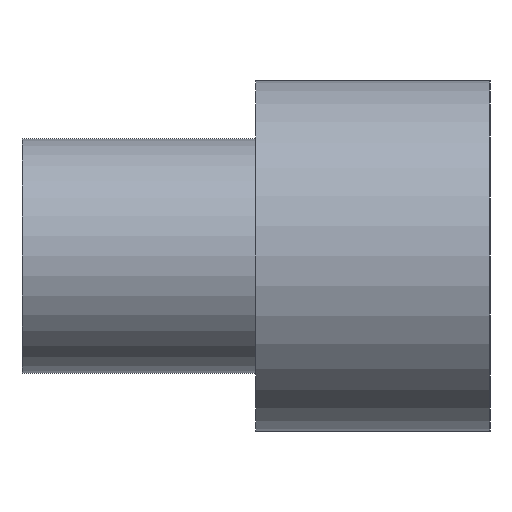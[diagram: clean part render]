
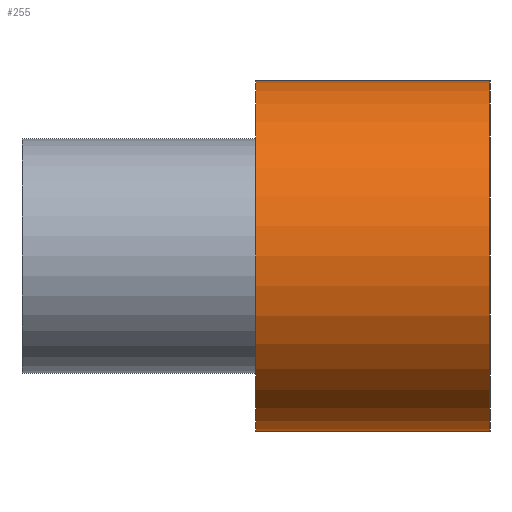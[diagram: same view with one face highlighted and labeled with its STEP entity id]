
A CAD part, left-side view. The second image highlights one B-rep face of the part: STEP entity #255.
In plain terms, the highlighted cylindrical face has radius 7.5 mm (diameter 15 mm), a partial arc.
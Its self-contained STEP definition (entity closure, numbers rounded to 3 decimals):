
#11 = ORIENTED_EDGE ( 'NONE', *, *, #122, .T. ) ;
#13 = LINE ( 'NONE', #157, #391 ) ;
#20 = ORIENTED_EDGE ( 'NONE', *, *, #103, .F. ) ;
#36 = VERTEX_POINT ( 'NONE', #212 ) ;
#60 = ORIENTED_EDGE ( 'NONE', *, *, #77, .T. ) ;
#77 = EDGE_CURVE ( 'NONE', #84, #338, #114, .T. ) ;
#84 = VERTEX_POINT ( 'NONE', #181 ) ;
#90 = DIRECTION ( 'NONE',  ( 0., 1., 0. ) ) ;
#98 = DIRECTION ( 'NONE',  ( 0., 0., 1. ) ) ;
#103 = EDGE_CURVE ( 'NONE', #244, #36, #188, .T. ) ;
#114 = CIRCLE ( 'NONE', #319, 7.5 ) ;
#122 = EDGE_CURVE ( 'NONE', #244, #84, #223, .T. ) ;
#146 = EDGE_CURVE ( 'NONE', #36, #338, #13, .T. ) ;
#149 = VECTOR ( 'NONE', #256, 1000. ) ;
#155 = DIRECTION ( 'NONE',  ( 0., 0., -1. ) ) ;
#156 = CARTESIAN_POINT ( 'NONE',  ( 0., 10., -7.5 ) ) ;
#157 = CARTESIAN_POINT ( 'NONE',  ( 0., 10., 7.5 ) ) ;
#161 = CYLINDRICAL_SURFACE ( 'NONE', #362, 7.5 ) ;
#175 = DIRECTION ( 'NONE',  ( 0., 0., 1. ) ) ;
#181 = CARTESIAN_POINT ( 'NONE',  ( 0., 0., -7.5 ) ) ;
#182 = DIRECTION ( 'NONE',  ( 0., -1., 0. ) ) ;
#188 = CIRCLE ( 'NONE', #241, 7.5 ) ;
#199 = CARTESIAN_POINT ( 'NONE',  ( 0., 0., 7.5 ) ) ;
#205 = ORIENTED_EDGE ( 'NONE', *, *, #146, .F. ) ;
#212 = CARTESIAN_POINT ( 'NONE',  ( 0., 10., 7.5 ) ) ;
#223 = LINE ( 'NONE', #347, #149 ) ;
#241 = AXIS2_PLACEMENT_3D ( 'NONE', #377, #341, #98 ) ;
#244 = VERTEX_POINT ( 'NONE', #156 ) ;
#253 = DIRECTION ( 'NONE',  ( 0., -1., 0. ) ) ;
#255 = ADVANCED_FACE ( 'NONE', ( #320 ), #161, .T. ) ;
#256 = DIRECTION ( 'NONE',  ( 0., -1., 0. ) ) ;
#277 = CARTESIAN_POINT ( 'NONE',  ( 0., 0., 0. ) ) ;
#319 = AXIS2_PLACEMENT_3D ( 'NONE', #277, #90, #175 ) ;
#320 = FACE_OUTER_BOUND ( 'NONE', #393, .T. ) ;
#338 = VERTEX_POINT ( 'NONE', #199 ) ;
#341 = DIRECTION ( 'NONE',  ( 0., 1., 0. ) ) ;
#347 = CARTESIAN_POINT ( 'NONE',  ( 0., 10., -7.5 ) ) ;
#350 = CARTESIAN_POINT ( 'NONE',  ( 0., 10., 0. ) ) ;
#362 = AXIS2_PLACEMENT_3D ( 'NONE', #350, #182, #155 ) ;
#377 = CARTESIAN_POINT ( 'NONE',  ( 0., 10., 0. ) ) ;
#391 = VECTOR ( 'NONE', #253, 1000. ) ;
#393 = EDGE_LOOP ( 'NONE', ( #60, #205, #20, #11 ) ) ;
